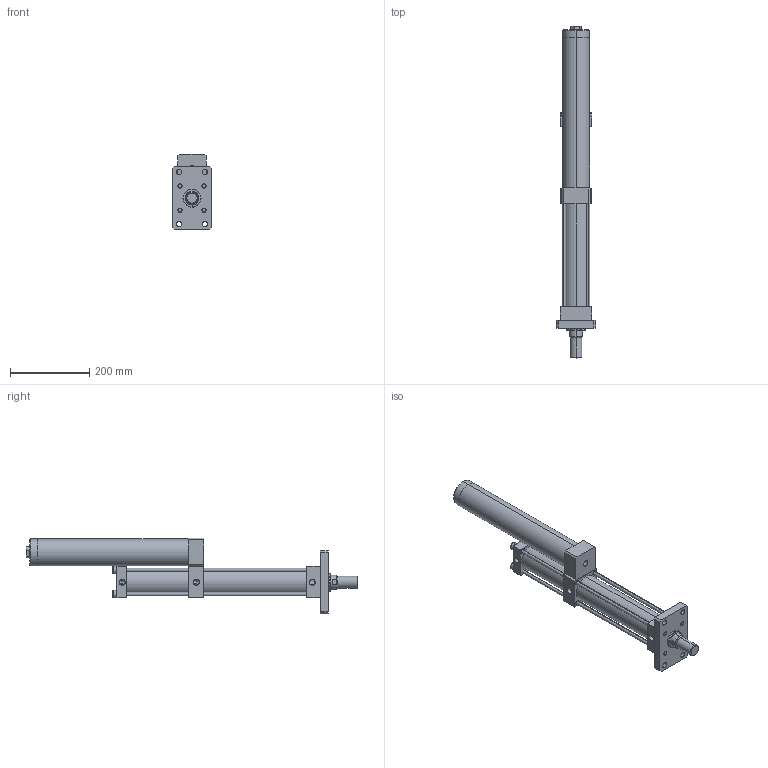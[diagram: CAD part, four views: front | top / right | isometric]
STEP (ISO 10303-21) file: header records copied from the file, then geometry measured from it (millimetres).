
FILE_DESCRIPTION (( 'STEP AP203' ), '1' );
FILE_NAME ('MPT-63-200-10-1T.STEP', '2016-03-17T09:41:37', ( 'WIN' ), ( '' ), 'SwSTEP 2.0', 'SolidWorks 2014', '' );
FILE_SCHEMA (( 'CONFIG_CONTROL_DESIGN' ));
Length unit declared in the file: millimetre
Products named in the file (1): MPT-63-200-10-1T
Bounding box: 100 x 840 x 191 mm (x, y, z)
Volume: 2668956.1 mm3; surface area: 517576 mm2
Topology: 15 solids, 15 shells, 270 faces, 609 edges, 378 vertices
Faces by surface type: plane 150, cylinder 84, cone 24, torus 12
Entity records: 7693 total; most frequent: DIRECTION 1396, CARTESIAN_POINT 1351, ORIENTED_EDGE 1206, EDGE_CURVE 603, AXIS2_PLACEMENT_3D 533, VERTEX_POINT 378, LINE 330, VECTOR 330
